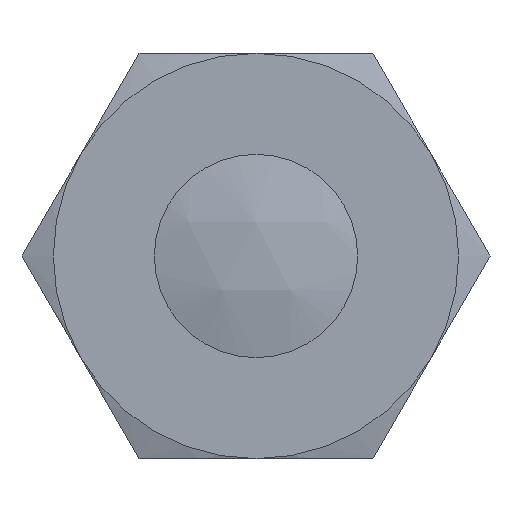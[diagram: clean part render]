
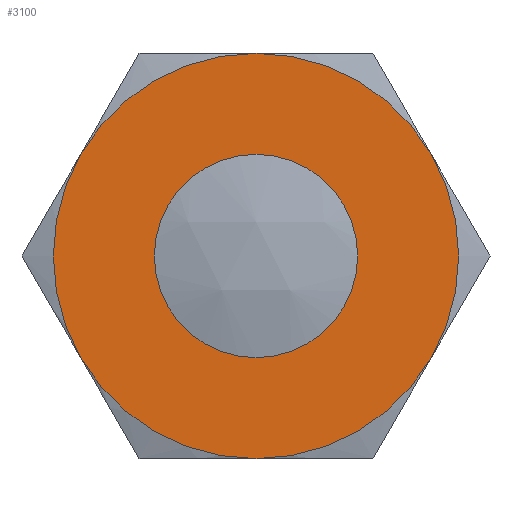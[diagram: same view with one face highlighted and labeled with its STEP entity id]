
A CAD part, left-side view. The second image highlights one B-rep face of the part: STEP entity #3100.
In plain terms, the highlighted planar face has unit normal (-1, 0, 0).
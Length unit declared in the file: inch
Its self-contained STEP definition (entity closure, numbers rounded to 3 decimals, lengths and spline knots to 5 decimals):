
#1111=CARTESIAN_POINT('',(-0.937,0.2195,0.0));
#1112=VERTEX_POINT('',#1111);
#1128=CARTESIAN_POINT('',(-0.937,-0.2195,0.));
#1129=VERTEX_POINT('',#1128);
#1136=CARTESIAN_POINT('',(-0.937,0.0,0.0));
#1137=DIRECTION('',(1.0,0.0,0.0));
#1138=DIRECTION('',(0.0,1.0,0.0));
#1139=AXIS2_PLACEMENT_3D('',#1136,#1137,#1138);
#1140=CIRCLE('',#1139,0.2195);
#1141=EDGE_CURVE('',#1112,#1129,#1140,.T.);
#3029=CARTESIAN_POINT('',(-0.937,0.0,0.));
#3030=DIRECTION('',(-1.0,0.0,0.0));
#3031=DIRECTION('',(0.0,0.0,-1.0));
#3032=AXIS2_PLACEMENT_3D('',#3029,#3030,#3031);
#3033=PLANE('',#3032);
#3034=CARTESIAN_POINT('',(-0.937,-0.37889,0.21875));
#3035=VERTEX_POINT('',#3034);
#3036=CARTESIAN_POINT('',(-0.937,0.0,0.4375));
#3037=VERTEX_POINT('',#3036);
#3038=CARTESIAN_POINT('',(-0.937,0.0,0.0));
#3039=DIRECTION('',(-1.0,0.0,0.0));
#3040=DIRECTION('',(0.0,0.0,-1.0));
#3041=AXIS2_PLACEMENT_3D('',#3038,#3039,#3040);
#3042=CIRCLE('',#3041,0.4375);
#3043=EDGE_CURVE('',#3035,#3037,#3042,.T.);
#3044=ORIENTED_EDGE('',*,*,#3043,.T.);
#3045=CARTESIAN_POINT('',(-0.937,0.37889,0.21875));
#3046=VERTEX_POINT('',#3045);
#3047=CARTESIAN_POINT('',(-0.937,0.0,0.0));
#3048=DIRECTION('',(-1.0,0.0,0.0));
#3049=DIRECTION('',(0.0,0.0,-1.0));
#3050=AXIS2_PLACEMENT_3D('',#3047,#3048,#3049);
#3051=CIRCLE('',#3050,0.4375);
#3052=EDGE_CURVE('',#3037,#3046,#3051,.T.);
#3053=ORIENTED_EDGE('',*,*,#3052,.T.);
#3054=CARTESIAN_POINT('',(-0.937,0.37889,-0.21875));
#3055=VERTEX_POINT('',#3054);
#3056=CARTESIAN_POINT('',(-0.937,0.0,0.0));
#3057=DIRECTION('',(-1.0,0.0,0.0));
#3058=DIRECTION('',(0.0,0.0,-1.0));
#3059=AXIS2_PLACEMENT_3D('',#3056,#3057,#3058);
#3060=CIRCLE('',#3059,0.4375);
#3061=EDGE_CURVE('',#3046,#3055,#3060,.T.);
#3062=ORIENTED_EDGE('',*,*,#3061,.T.);
#3063=CARTESIAN_POINT('',(-0.937,0.0,-0.4375));
#3064=VERTEX_POINT('',#3063);
#3065=CARTESIAN_POINT('',(-0.937,0.0,0.0));
#3066=DIRECTION('',(-1.0,0.0,0.0));
#3067=DIRECTION('',(0.0,0.0,-1.0));
#3068=AXIS2_PLACEMENT_3D('',#3065,#3066,#3067);
#3069=CIRCLE('',#3068,0.4375);
#3070=EDGE_CURVE('',#3055,#3064,#3069,.T.);
#3071=ORIENTED_EDGE('',*,*,#3070,.T.);
#3072=CARTESIAN_POINT('',(-0.937,-0.37889,-0.21875));
#3073=VERTEX_POINT('',#3072);
#3074=CARTESIAN_POINT('',(-0.937,0.0,0.0));
#3075=DIRECTION('',(-1.0,0.0,0.0));
#3076=DIRECTION('',(0.0,0.0,-1.0));
#3077=AXIS2_PLACEMENT_3D('',#3074,#3075,#3076);
#3078=CIRCLE('',#3077,0.4375);
#3079=EDGE_CURVE('',#3064,#3073,#3078,.T.);
#3080=ORIENTED_EDGE('',*,*,#3079,.T.);
#3081=CARTESIAN_POINT('',(-0.937,0.0,0.0));
#3082=DIRECTION('',(-1.0,0.0,0.0));
#3083=DIRECTION('',(0.0,0.0,-1.0));
#3084=AXIS2_PLACEMENT_3D('',#3081,#3082,#3083);
#3085=CIRCLE('',#3084,0.4375);
#3086=EDGE_CURVE('',#3073,#3035,#3085,.T.);
#3087=ORIENTED_EDGE('',*,*,#3086,.T.);
#3088=EDGE_LOOP('',(#3044,#3053,#3062,#3071,#3080,#3087));
#3089=FACE_OUTER_BOUND('',#3088,.T.);
#3090=ORIENTED_EDGE('',*,*,#1141,.T.);
#3091=CARTESIAN_POINT('',(-0.937,0.0,0.0));
#3092=DIRECTION('',(1.0,0.0,0.0));
#3093=DIRECTION('',(0.0,1.0,0.0));
#3094=AXIS2_PLACEMENT_3D('',#3091,#3092,#3093);
#3095=CIRCLE('',#3094,0.2195);
#3096=EDGE_CURVE('',#1129,#1112,#3095,.T.);
#3097=ORIENTED_EDGE('',*,*,#3096,.T.);
#3098=EDGE_LOOP('',(#3090,#3097));
#3099=FACE_BOUND('',#3098,.T.);
#3100=ADVANCED_FACE('',(#3089,#3099),#3033,.T.);
